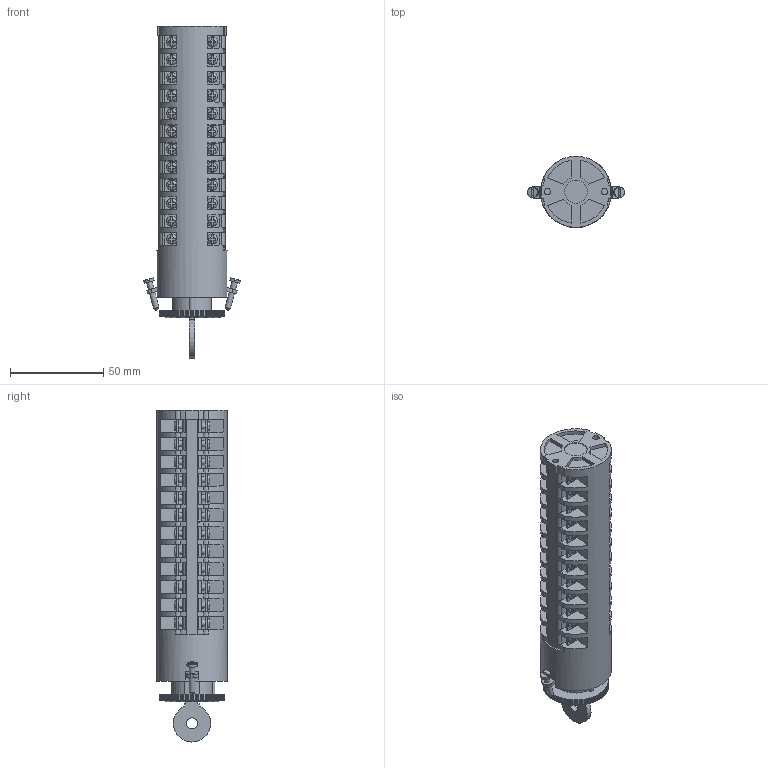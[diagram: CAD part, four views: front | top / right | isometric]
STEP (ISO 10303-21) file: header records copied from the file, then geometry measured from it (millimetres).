
FILE_DESCRIPTION(/* description */ (''),/* implementation_level */ '2;1');
FILE_NAME(/* name */ '4G10-U_wykonanie_S10_12_korpusow.stp',/* time_stamp */ '2021-07-21T08:40:02+02:00',/* author */ (''),/* organization */ (''),/* preprocessor_version */ 'ST-DEVELOPER v18.1',/* originating_system */ 'SIEMENS PLM Software NX 1965',/* authorisation */ '');
FILE_SCHEMA (('AUTOMOTIVE_DESIGN { 1 0 10303 214 3 1 1 1 }'));
Length unit declared in the file: millimetre
Products named in the file (1): 4G10-U_wykonanie_S10_12_korpusow_stp
Bounding box: 51.98 x 38 x 177.88 mm (x, y, z)
Volume: 141464.9 mm3; surface area: 42504.8 mm2
Topology: 1 solids, 3 shells, 1823 faces, 5157 edges, 3452 vertices
Faces by surface type: plane 1493, cylinder 276, bspline 48, cone 4, torus 2
Full cylindrical faces by diameter (mm): 3 x4, 3.2 x48, 3.4 x4, 5.5 x2, 5.6 x2, 6 x1, 12.3 x1, 15.8 x1, 16.1 x1, 38 x1
Entity records: 59060 total; most frequent: CARTESIAN_POINT 13094, ORIENTED_EDGE 9854, DIRECTION 9026, EDGE_CURVE 4927, VERTEX_POINT 3343, LINE 3244, VECTOR 3244, AXIS2_PLACEMENT_3D 2891
